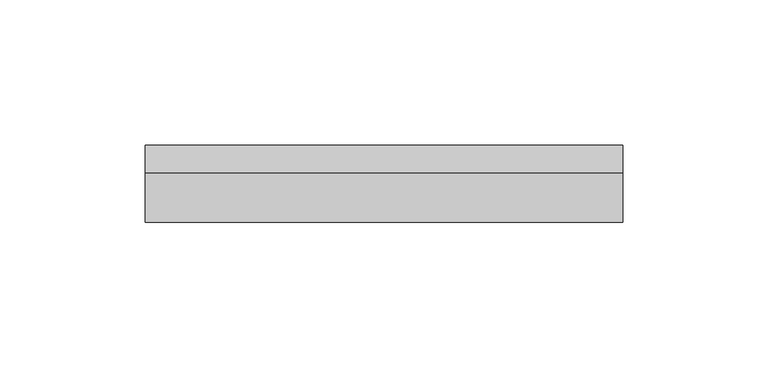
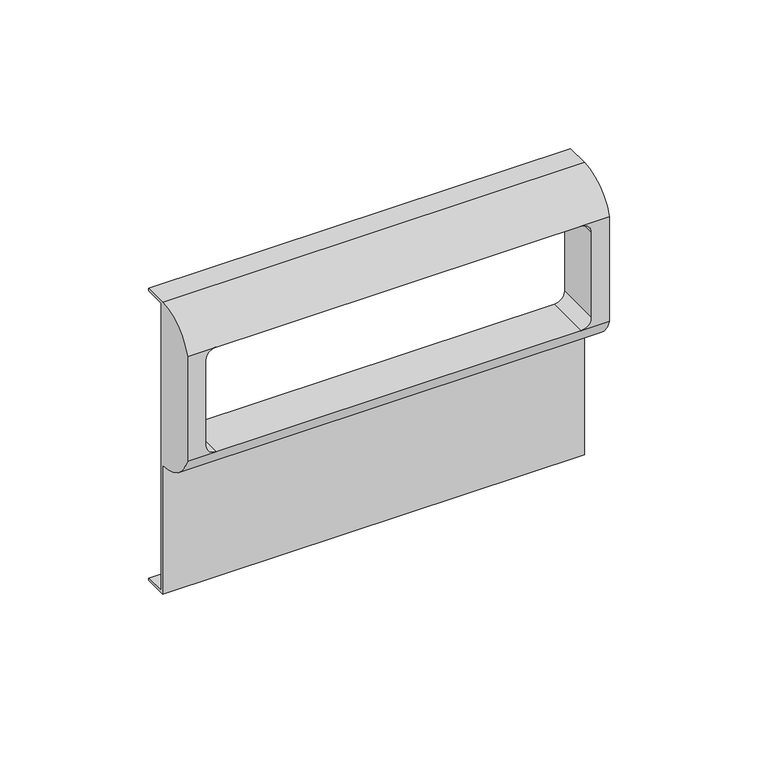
"""IFC4 building model written with IfcOpenShell, lengths in millimetres: proxy geometry."""

from ifc_helpers import new_model, si_unit, frame, origin, place, context, project, spatial, polyline, circle_curve, source, transform, mapped, element, save
from ifc_brep_helpers import plane_surface, cylinder_surface, revolved_surface, advanced_brep


def electrical_fixtures_5095c1bf(model_context):
    return source(origin(), model_context, "Body", "AdvancedBrep", [
        advanced_brep(
        [(82.0, 8.4, 59.0), (82.0, 8.4, 60.0), (82.0, -1.0, 60.0), (82.0, -18.0, 48.0), (82.0, -18.0, 5.0), (82.0, -1.0, -7.0), (82.0, -1.0, -60.0), (82.0, 8.4, -60.0), (82.0, 8.4, -59.0), (82.0, 0.0, -59.0), (82.0, 0.0, 59.0), (-82.0, 8.4, 59.0), (-82.0, 0.0, 59.0), (-82.0, 0.0, -59.0), (-82.0, 8.4, -59.0), (-82.0, 8.4, -60.0), (-82.0, -1.0, -60.0), (-82.0, -1.0, -7.0), (-82.0, -18.0, 5.0), (-82.0, -18.0, 48.0), (-82.0, -1.0, 60.0), (-82.0, 8.4, 60.0), (70.9686648, -18.0, 48.0), (75.0, -18.0, 43.9686648), (75.0, -18.0, 9.0313352), (70.9686648, -18.0, 5.0), (-70.9686648, -18.0, 5.0), (-75.0, -18.0, 9.0313352), (-75.0, -18.0, 43.9686648), (-70.9686648, -18.0, 48.0), (70.9686648, 0.0, 48.0), (-70.9686648, 0.0, 48.0), (-75.0, 0.0, 43.9686648), (-75.0, 0.0, 9.0313352), (-70.9686648, 0.0, 5.0), (70.9686648, 0.0, 5.0), (75.0, 0.0, 9.0313352), (75.0, 0.0, 43.9686648)],
        [
            (0, 1),
            (1, 2),
            (2, 3, circle_curve(frame((82.0, -1.0, 41.9583333), z_axis=(1.0, 0.0, 0.0), x_axis=(0.0, 1.0, 0.0)), 18.0416667)),
            (3, 4),
            (4, 5, circle_curve(frame((82.0, -1.0, 11.0416667), z_axis=(1.0, 0.0, 0.0), x_axis=(0.0, 1.0, 0.0)), 18.0416667)),
            (5, 6),
            (6, 7),
            (7, 8),
            (8, 9),
            (9, 10),
            (10, 0),
            (11, 12),
            (12, 13),
            (13, 14),
            (14, 15),
            (15, 16),
            (16, 17),
            (17, 18, circle_curve(frame((-82.0, -1.0, 11.0416667), z_axis=(-1.0, 0.0, 0.0), x_axis=(0.0, 1.0, 0.0)), 18.0416667)),
            (18, 19),
            (19, 20, circle_curve(frame((-82.0, -1.0, 41.9583333), z_axis=(-1.0, 0.0, 0.0), x_axis=(0.0, 1.0, 0.0)), 18.0416667)),
            (20, 21),
            (21, 11),
            (0, 11),
            (21, 1),
            (20, 2),
            (3, 22),
            (22, 23, circle_curve(frame((70.9686648, -18.0, 43.9686648), z_axis=(0.0, 1.0, 0.0), x_axis=(1.0, 0.0, 0.0)), 4.0313352)),
            (23, 24),
            (24, 25, circle_curve(frame((70.9686648, -18.0, 9.0313352), z_axis=(0.0, 1.0, 0.0), x_axis=(1.0, 0.0, 0.0)), 4.0313352)),
            (25, 4),
            (18, 26),
            (26, 27, circle_curve(frame((-70.9686648, -18.0, 9.0313352), z_axis=(0.0, 1.0, 0.0), x_axis=(1.0, 0.0, 0.0)), 4.0313352)),
            (27, 28),
            (28, 29, circle_curve(frame((-70.9686648, -18.0, 43.9686648), z_axis=(0.0, 1.0, 0.0), x_axis=(1.0, 0.0, 0.0)), 4.0313352)),
            (29, 19),
            (5, 17),
            (16, 6),
            (15, 7),
            (14, 8),
            (13, 9),
            (12, 10),
            (30, 31),
            (31, 32, circle_curve(frame((-70.9686648, 0.0, 43.9686648), z_axis=(0.0, -1.0, 0.0), x_axis=(1.0, 0.0, 0.0)), 4.0313352)),
            (32, 33),
            (33, 34, circle_curve(frame((-70.9686648, 0.0, 9.0313352), z_axis=(0.0, -1.0, 0.0), x_axis=(1.0, 0.0, 0.0)), 4.0313352)),
            (34, 35),
            (35, 36, circle_curve(frame((70.9686648, 0.0, 9.0313352), z_axis=(0.0, -1.0, 0.0), x_axis=(1.0, 0.0, 0.0)), 4.0313352)),
            (36, 37),
            (37, 30, circle_curve(frame((70.9686648, 0.0, 43.9686648), z_axis=(0.0, -1.0, 0.0), x_axis=(1.0, 0.0, 0.0)), 4.0313352)),
            (29, 22),
            (25, 26),
            (29, 31),
            (30, 22),
            (28, 32),
            (27, 33),
            (26, 34),
            (25, 35),
            (24, 36),
            (23, 37),
        ],
        [
            plane_surface(frame((82.0, 8.4, 60.0), z_axis=(1.0, 0.0, 0.0), x_axis=(0.0, 0.0, 1.0))),
            plane_surface(frame((-82.0, 8.4, 60.0), z_axis=(-1.0, 0.0, 0.0), x_axis=(0.0, 0.0, -1.0))),
            plane_surface(frame((82.0, 8.4, 59.0), z_axis=(0.0, 1.0, 0.0), x_axis=(-1.0, 0.0, 0.0))),
            plane_surface(frame((82.0, 8.4, 60.0), z_axis=(0.0, 0.0, 1.0), x_axis=(-1.0, 0.0, 0.0))),
            plane_surface(frame((82.0, -18.0, 48.0), z_axis=(0.0, -1.0, 0.0), x_axis=(-1.0, 0.0, 0.0))),
            plane_surface(frame((82.0, -1.0, -7.0), z_axis=(0.0, -1.0, 0.0), x_axis=(-1.0, 0.0, 0.0))),
            plane_surface(frame((82.0, -1.0, -60.0), z_axis=(0.0, 0.0, -1.0), x_axis=(-1.0, 0.0, 0.0))),
            plane_surface(frame((82.0, 8.4, -60.0), z_axis=(0.0, 1.0, 0.0), x_axis=(-1.0, 0.0, 0.0))),
            plane_surface(frame((82.0, 8.4, -59.0), z_axis=(0.0, 0.0, 1.0), x_axis=(-1.0, 0.0, 0.0))),
            plane_surface(frame((82.0, 0.0, -59.0), z_axis=(0.0, 1.0, 0.0), x_axis=(-1.0, 0.0, 0.0))),
            plane_surface(frame((82.0, 0.0, 59.0), z_axis=(0.0, 0.0, -1.0), x_axis=(-1.0, 0.0, 0.0))),
            cylinder_surface(frame((-82.0, -1.0, 41.9583333), z_axis=(1.0, 0.0, 0.0), x_axis=(0.0, 1.0, 0.0)), 18.0416667),
            cylinder_surface(frame((-82.0, -1.0, 11.0416667), z_axis=(1.0, 0.0, 0.0), x_axis=(0.0, 1.0, 0.0)), 18.0416667),
            plane_surface(frame((70.9686648, -18.0, 48.0), z_axis=(0.0, 0.0, -1.0), x_axis=(0.0, 1.0, 0.0))),
            revolved_surface(polyline([(-66.9373296, -18.0, 43.9686648), (-66.9373296, 0.0, 43.9686648)]), (-70.9686648, 0.0, 43.9686648), (0.0, -1.0, 0.0)),
            plane_surface(frame((-75.0, -18.0, 43.9686648), z_axis=(1.0, 0.0, 0.0), x_axis=(0.0, 1.0, 0.0))),
            revolved_surface(polyline([(-66.9373296, -18.0, 9.0313352), (-66.9373296, 0.0, 9.0313352)]), (-70.9686648, 0.0, 9.0313352), (0.0, -1.0, 0.0)),
            plane_surface(frame((-70.9686648, -18.0, 5.0), z_axis=(0.0, 0.0, 1.0), x_axis=(0.0, 1.0, 0.0))),
            revolved_surface(polyline([(75.0, -18.0, 9.0313352), (75.0, 0.0, 9.0313352)]), (70.9686648, 0.0, 9.0313352), (0.0, -1.0, 0.0)),
            plane_surface(frame((75.0, -18.0, 9.0313352), z_axis=(-1.0, 0.0, 0.0), x_axis=(0.0, 1.0, 0.0))),
            revolved_surface(polyline([(75.0, -18.0, 43.9686648), (75.0, 0.0, 43.9686648)]), (70.9686648, 0.0, 43.9686648), (0.0, -1.0, 0.0)),
        ],
        [
            (0, [[1, 2, 3, 4, 5, 6, 7, 8, 9, 10, 11]]),
            (1, [[12, 13, 14, 15, 16, 17, 18, 19, 20, 21, 22]]),
            (2, [[-1, 23, -22, 24]]),
            (3, [[-2, -24, -21, 25]]),
            (4, [[-4, 26, 27, 28, 29, 30]]),
            (4, [[-19, 31, 32, 33, 34, 35]]),
            (5, [[-6, 36, -17, 37]]),
            (6, [[-7, -37, -16, 38]]),
            (7, [[-8, -38, -15, 39]]),
            (8, [[-9, -39, -14, 40]]),
            (9, [[-10, -40, -13, 41], [42, 43, 44, 45, 46, 47, 48, 49]]),
            (10, [[-11, -41, -12, -23]]),
            (11, [[-3, -25, -20, -35, 50, -26]]),
            (12, [[-5, -30, 51, -31, -18, -36]]),
            (13, [[52, -42, 53, -50]]),
            (14, [[-52, -34, 54, -43]]),
            (15, [[-54, -33, 55, -44]]),
            (16, [[-55, -32, 56, -45]]),
            (17, [[-56, -51, 57, -46]]),
            (18, [[-57, -29, 58, -47]]),
            (19, [[-58, -28, 59, -48]]),
            (20, [[-53, -49, -59, -27]]),
        ],
    ),
    ])


if __name__ == "__main__":
    model = new_model("IFC4")
    model_context = context("Model", 3, world=origin())
    ifc_project = project(units=[si_unit("LENGTHUNIT", "METRE", prefix="MILLI")], contexts=[model_context])
    site = spatial("IfcSite", under=ifc_project)
    building = spatial("IfcBuilding", under=site)
    placement = place(None, origin())
    electrical_fixtures_shape = electrical_fixtures_5095c1bf(model_context)
    element("IfcBuildingElementProxy", 1, Name="КНС_РамкаСуппорт_ILC_DKC : Серия \"Brava\"", ObjectType="КНС_РамкаСуппорт_ILC_DKC : Серия \"Brava\"", at=placement, inside=building, context=model_context, shape_type="MappedRepresentation", body=[
        mapped(electrical_fixtures_shape, transform((0.0, 0.0, 0.0), x_axis=(1.0, 0.0, 0.0), y_axis=(0.0, 1.0, 0.0), z_axis=(0.0, 0.0, 1.0))),
    ])
    save(model, "model.ifc")
